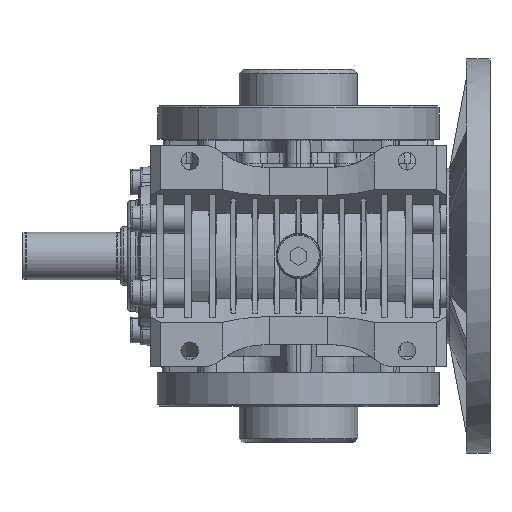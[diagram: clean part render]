
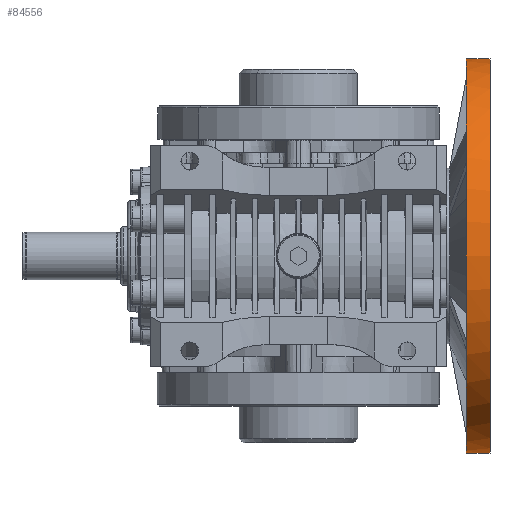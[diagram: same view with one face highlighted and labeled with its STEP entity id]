
A CAD part, front view. The second image highlights one B-rep face of the part: STEP entity #84556.
In plain terms, the highlighted cylindrical face has radius 100 mm (diameter 200 mm), a partial arc.
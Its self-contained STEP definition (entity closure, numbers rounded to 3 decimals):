
#8720 = CIRCLE ( 'NONE', #58288, 100. ) ;
#9882 = VERTEX_POINT ( 'NONE', #26693 ) ;
#9929 = DIRECTION ( 'NONE',  ( 0., 0., -1. ) ) ;
#11590 = LINE ( 'NONE', #72698, #31431 ) ;
#11689 = VERTEX_POINT ( 'NONE', #18014 ) ;
#12962 = CARTESIAN_POINT ( 'NONE',  ( 187.177, -63., -100. ) ) ;
#13664 = DIRECTION ( 'NONE',  ( 0., 0., -1. ) ) ;
#16521 = ORIENTED_EDGE ( 'NONE', *, *, #63843, .T. ) ;
#16678 = DIRECTION ( 'NONE',  ( 0., 0., -1. ) ) ;
#18014 = CARTESIAN_POINT ( 'NONE',  ( 92., -63., -100. ) ) ;
#20251 = DIRECTION ( 'NONE',  ( 0., 0., 1. ) ) ;
#24563 = LINE ( 'NONE', #25745, #85650 ) ;
#25028 = ORIENTED_EDGE ( 'NONE', *, *, #97909, .F. ) ;
#25161 = DIRECTION ( 'NONE',  ( 1., 0., 0. ) ) ;
#25745 = CARTESIAN_POINT ( 'NONE',  ( 187.177, -69., 99.82 ) ) ;
#26693 = CARTESIAN_POINT ( 'NONE',  ( 97., -69., -99.82 ) ) ;
#26725 = DIRECTION ( 'NONE',  ( -1., 0., 0. ) ) ;
#26731 = DIRECTION ( 'NONE',  ( 1., 0., 0. ) ) ;
#28346 = VERTEX_POINT ( 'NONE', #108170 ) ;
#28625 = CARTESIAN_POINT ( 'NONE',  ( 97., -69., 99.82 ) ) ;
#29829 = CARTESIAN_POINT ( 'NONE',  ( 97., -63., 0. ) ) ;
#29836 = CARTESIAN_POINT ( 'NONE',  ( 92., -63., 0. ) ) ;
#31003 = VERTEX_POINT ( 'NONE', #69769 ) ;
#31431 = VECTOR ( 'NONE', #26731, 1000. ) ;
#32192 = DIRECTION ( 'NONE',  ( 1., 0., 0. ) ) ;
#33474 = FACE_OUTER_BOUND ( 'NONE', #95252, .T. ) ;
#34641 = DIRECTION ( 'NONE',  ( 1., 0., 0. ) ) ;
#35289 = AXIS2_PLACEMENT_3D ( 'NONE', #29829, #32192, #13664 ) ;
#36208 = CIRCLE ( 'NONE', #85839, 100. ) ;
#38583 = ORIENTED_EDGE ( 'NONE', *, *, #72628, .T. ) ;
#41582 = ORIENTED_EDGE ( 'NONE', *, *, #48799, .F. ) ;
#41645 = VECTOR ( 'NONE', #84065, 1000. ) ;
#43437 = CARTESIAN_POINT ( 'NONE',  ( 187.177, -69., -99.82 ) ) ;
#45275 = ORIENTED_EDGE ( 'NONE', *, *, #111988, .F. ) ;
#47585 = AXIS2_PLACEMENT_3D ( 'NONE', #81638, #73853, #9929 ) ;
#47634 = LINE ( 'NONE', #12962, #41645 ) ;
#48409 = VERTEX_POINT ( 'NONE', #55467 ) ;
#48799 = EDGE_CURVE ( 'NONE', #9882, #31003, #88869, .T. ) ;
#50631 = EDGE_CURVE ( 'NONE', #48409, #11689, #47634, .T. ) ;
#51659 = EDGE_CURVE ( 'NONE', #84232, #97488, #24563, .T. ) ;
#55467 = CARTESIAN_POINT ( 'NONE',  ( 85., -63., -100. ) ) ;
#58288 = AXIS2_PLACEMENT_3D ( 'NONE', #29836, #74638, #20251 ) ;
#58991 = DIRECTION ( 'NONE',  ( 0., 0., -1. ) ) ;
#62764 = EDGE_CURVE ( 'NONE', #97488, #9882, #98190, .T. ) ;
#63843 = EDGE_CURVE ( 'NONE', #11689, #31003, #8720, .T. ) ;
#69769 = CARTESIAN_POINT ( 'NONE',  ( 92., -69., -99.82 ) ) ;
#72628 = EDGE_CURVE ( 'NONE', #28346, #48409, #36208, .T. ) ;
#72698 = CARTESIAN_POINT ( 'NONE',  ( 187.177, -63., 100. ) ) ;
#73853 = DIRECTION ( 'NONE',  ( 1., 0., 0. ) ) ;
#74638 = DIRECTION ( 'NONE',  ( -1., 0., 0. ) ) ;
#78983 = AXIS2_PLACEMENT_3D ( 'NONE', #97349, #34641, #16678 ) ;
#81638 = CARTESIAN_POINT ( 'NONE',  ( 92., -63., 0. ) ) ;
#83465 = CARTESIAN_POINT ( 'NONE',  ( 92., -63., 100. ) ) ;
#83547 = ORIENTED_EDGE ( 'NONE', *, *, #51659, .F. ) ;
#84065 = DIRECTION ( 'NONE',  ( 1., 0., 0. ) ) ;
#84232 = VERTEX_POINT ( 'NONE', #102812 ) ;
#84556 = ADVANCED_FACE ( 'NONE', ( #33474 ), #98537, .T. ) ;
#85650 = VECTOR ( 'NONE', #25161, 1000. ) ;
#85839 = AXIS2_PLACEMENT_3D ( 'NONE', #105009, #96051, #58991 ) ;
#88869 = LINE ( 'NONE', #43437, #109861 ) ;
#91312 = ORIENTED_EDGE ( 'NONE', *, *, #50631, .T. ) ;
#95252 = EDGE_LOOP ( 'NONE', ( #25028, #38583, #91312, #16521, #41582, #113044, #83547, #45275 ) ) ;
#96051 = DIRECTION ( 'NONE',  ( 1., 0., 0. ) ) ;
#97349 = CARTESIAN_POINT ( 'NONE',  ( 187.177, -63., 0. ) ) ;
#97488 = VERTEX_POINT ( 'NONE', #28625 ) ;
#97909 = EDGE_CURVE ( 'NONE', #28346, #100980, #11590, .T. ) ;
#98190 = CIRCLE ( 'NONE', #35289, 100. ) ;
#98537 = CYLINDRICAL_SURFACE ( 'NONE', #78983, 100. ) ;
#99081 = CIRCLE ( 'NONE', #47585, 100. ) ;
#100980 = VERTEX_POINT ( 'NONE', #83465 ) ;
#102812 = CARTESIAN_POINT ( 'NONE',  ( 92., -69., 99.82 ) ) ;
#105009 = CARTESIAN_POINT ( 'NONE',  ( 85., -63., 0. ) ) ;
#108170 = CARTESIAN_POINT ( 'NONE',  ( 85., -63., 100. ) ) ;
#109861 = VECTOR ( 'NONE', #26725, 1000. ) ;
#111988 = EDGE_CURVE ( 'NONE', #100980, #84232, #99081, .T. ) ;
#113044 = ORIENTED_EDGE ( 'NONE', *, *, #62764, .F. ) ;
